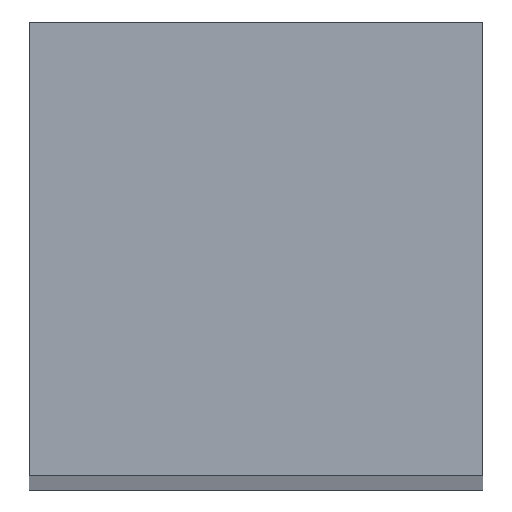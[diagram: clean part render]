
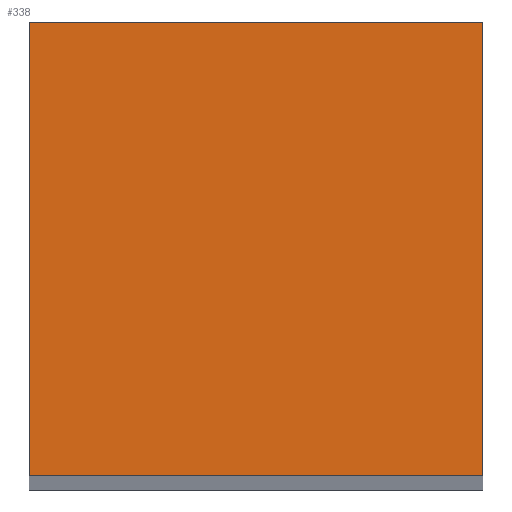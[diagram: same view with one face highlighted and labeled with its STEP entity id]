
A CAD part, top view. The second image highlights one B-rep face of the part: STEP entity #338.
In plain terms, the highlighted planar face has unit normal (0, 0, 1).
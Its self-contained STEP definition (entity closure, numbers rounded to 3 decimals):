
#24 = VERTEX_POINT('',#25);
#25 = CARTESIAN_POINT('',(270.,-210.,720.));
#32 = PLANE('',#33);
#33 = AXIS2_PLACEMENT_3D('',#34,#35,#36);
#34 = CARTESIAN_POINT('',(270.,-210.,0.));
#35 = DIRECTION('',(1.,0.,0.));
#36 = DIRECTION('',(0.,0.,1.));
#44 = PLANE('',#45);
#45 = AXIS2_PLACEMENT_3D('',#46,#47,#48);
#46 = CARTESIAN_POINT('',(270.,-210.,0.));
#47 = DIRECTION('',(0.,1.,0.));
#48 = DIRECTION('',(0.,0.,1.));
#85 = VERTEX_POINT('',#86);
#86 = CARTESIAN_POINT('',(270.,-170.,720.));
#100 = PLANE('',#101);
#101 = AXIS2_PLACEMENT_3D('',#102,#103,#104);
#102 = CARTESIAN_POINT('',(270.,-170.,0.));
#103 = DIRECTION('',(0.,1.,0.));
#104 = DIRECTION('',(0.,0.,1.));
#112 = EDGE_CURVE('',#24,#85,#113,.T.);
#113 = SURFACE_CURVE('',#114,(#118,#125),.PCURVE_S1.);
#114 = LINE('',#115,#116);
#115 = CARTESIAN_POINT('',(270.,-210.,720.));
#116 = VECTOR('',#117,1.);
#117 = DIRECTION('',(0.,1.,0.));
#118 = PCURVE('',#32,#119);
#119 = DEFINITIONAL_REPRESENTATION('',(#120),#124);
#120 = LINE('',#121,#122);
#121 = CARTESIAN_POINT('',(720.,0.));
#122 = VECTOR('',#123,1.);
#123 = DIRECTION('',(0.,-1.));
#124 = ( GEOMETRIC_REPRESENTATION_CONTEXT(2) 
PARAMETRIC_REPRESENTATION_CONTEXT() REPRESENTATION_CONTEXT('2D SPACE',''
  ) );
#125 = PCURVE('',#126,#131);
#126 = PLANE('',#127);
#127 = AXIS2_PLACEMENT_3D('',#128,#129,#130);
#128 = CARTESIAN_POINT('',(270.,-210.,720.));
#129 = DIRECTION('',(0.,0.,1.));
#130 = DIRECTION('',(1.,0.,0.));
#131 = DEFINITIONAL_REPRESENTATION('',(#132),#136);
#132 = LINE('',#133,#134);
#133 = CARTESIAN_POINT('',(0.,0.));
#134 = VECTOR('',#135,1.);
#135 = DIRECTION('',(0.,1.));
#136 = ( GEOMETRIC_REPRESENTATION_CONTEXT(2) 
PARAMETRIC_REPRESENTATION_CONTEXT() REPRESENTATION_CONTEXT('2D SPACE',''
  ) );
#144 = VERTEX_POINT('',#145);
#145 = CARTESIAN_POINT('',(310.,-210.,720.));
#152 = PLANE('',#153);
#153 = AXIS2_PLACEMENT_3D('',#154,#155,#156);
#154 = CARTESIAN_POINT('',(310.,-210.,0.));
#155 = DIRECTION('',(1.,0.,0.));
#156 = DIRECTION('',(0.,0.,1.));
#195 = VERTEX_POINT('',#196);
#196 = CARTESIAN_POINT('',(310.,-170.,720.));
#217 = EDGE_CURVE('',#144,#195,#218,.T.);
#218 = SURFACE_CURVE('',#219,(#223,#230),.PCURVE_S1.);
#219 = LINE('',#220,#221);
#220 = CARTESIAN_POINT('',(310.,-210.,720.));
#221 = VECTOR('',#222,1.);
#222 = DIRECTION('',(0.,1.,0.));
#223 = PCURVE('',#152,#224);
#224 = DEFINITIONAL_REPRESENTATION('',(#225),#229);
#225 = LINE('',#226,#227);
#226 = CARTESIAN_POINT('',(720.,0.));
#227 = VECTOR('',#228,1.);
#228 = DIRECTION('',(0.,-1.));
#229 = ( GEOMETRIC_REPRESENTATION_CONTEXT(2) 
PARAMETRIC_REPRESENTATION_CONTEXT() REPRESENTATION_CONTEXT('2D SPACE',''
  ) );
#230 = PCURVE('',#126,#231);
#231 = DEFINITIONAL_REPRESENTATION('',(#232),#236);
#232 = LINE('',#233,#234);
#233 = CARTESIAN_POINT('',(40.,0.));
#234 = VECTOR('',#235,1.);
#235 = DIRECTION('',(0.,1.));
#236 = ( GEOMETRIC_REPRESENTATION_CONTEXT(2) 
PARAMETRIC_REPRESENTATION_CONTEXT() REPRESENTATION_CONTEXT('2D SPACE',''
  ) );
#263 = EDGE_CURVE('',#24,#144,#264,.T.);
#264 = SURFACE_CURVE('',#265,(#269,#276),.PCURVE_S1.);
#265 = LINE('',#266,#267);
#266 = CARTESIAN_POINT('',(270.,-210.,720.));
#267 = VECTOR('',#268,1.);
#268 = DIRECTION('',(1.,0.,0.));
#269 = PCURVE('',#44,#270);
#270 = DEFINITIONAL_REPRESENTATION('',(#271),#275);
#271 = LINE('',#272,#273);
#272 = CARTESIAN_POINT('',(720.,0.));
#273 = VECTOR('',#274,1.);
#274 = DIRECTION('',(0.,1.));
#275 = ( GEOMETRIC_REPRESENTATION_CONTEXT(2) 
PARAMETRIC_REPRESENTATION_CONTEXT() REPRESENTATION_CONTEXT('2D SPACE',''
  ) );
#276 = PCURVE('',#126,#277);
#277 = DEFINITIONAL_REPRESENTATION('',(#278),#282);
#278 = LINE('',#279,#280);
#279 = CARTESIAN_POINT('',(0.,0.));
#280 = VECTOR('',#281,1.);
#281 = DIRECTION('',(1.,0.));
#282 = ( GEOMETRIC_REPRESENTATION_CONTEXT(2) 
PARAMETRIC_REPRESENTATION_CONTEXT() REPRESENTATION_CONTEXT('2D SPACE',''
  ) );
#310 = EDGE_CURVE('',#85,#195,#311,.T.);
#311 = SURFACE_CURVE('',#312,(#316,#323),.PCURVE_S1.);
#312 = LINE('',#313,#314);
#313 = CARTESIAN_POINT('',(270.,-170.,720.));
#314 = VECTOR('',#315,1.);
#315 = DIRECTION('',(1.,0.,0.));
#316 = PCURVE('',#100,#317);
#317 = DEFINITIONAL_REPRESENTATION('',(#318),#322);
#318 = LINE('',#319,#320);
#319 = CARTESIAN_POINT('',(720.,0.));
#320 = VECTOR('',#321,1.);
#321 = DIRECTION('',(0.,1.));
#322 = ( GEOMETRIC_REPRESENTATION_CONTEXT(2) 
PARAMETRIC_REPRESENTATION_CONTEXT() REPRESENTATION_CONTEXT('2D SPACE',''
  ) );
#323 = PCURVE('',#126,#324);
#324 = DEFINITIONAL_REPRESENTATION('',(#325),#329);
#325 = LINE('',#326,#327);
#326 = CARTESIAN_POINT('',(0.,40.));
#327 = VECTOR('',#328,1.);
#328 = DIRECTION('',(1.,0.));
#329 = ( GEOMETRIC_REPRESENTATION_CONTEXT(2) 
PARAMETRIC_REPRESENTATION_CONTEXT() REPRESENTATION_CONTEXT('2D SPACE',''
  ) );
#338 = ADVANCED_FACE('',(#339),#126,.T.);
#339 = FACE_BOUND('',#340,.T.);
#340 = EDGE_LOOP('',(#341,#342,#343,#344));
#341 = ORIENTED_EDGE('',*,*,#112,.F.);
#342 = ORIENTED_EDGE('',*,*,#263,.T.);
#343 = ORIENTED_EDGE('',*,*,#217,.T.);
#344 = ORIENTED_EDGE('',*,*,#310,.F.);
